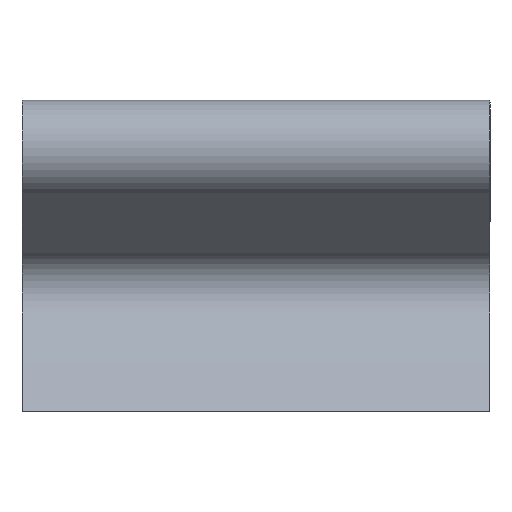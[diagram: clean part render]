
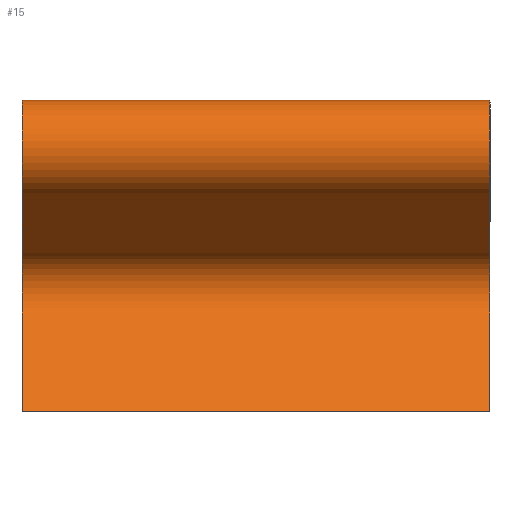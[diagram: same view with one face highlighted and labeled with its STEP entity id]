
A CAD part, left-side view. The second image highlights one B-rep face of the part: STEP entity #15.
In plain terms, the highlighted free-form (B-spline) face has degree [2, 1] with [27, 2] control points.
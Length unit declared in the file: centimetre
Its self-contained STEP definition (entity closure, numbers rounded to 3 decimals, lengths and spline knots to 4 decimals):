
#15=ADVANCED_FACE($,(#21),#76,.T.);
#21=FACE_OUTER_BOUND($,#27,.T.);
#27=EDGE_LOOP($,(#36,#37,#38,#39));
#36=ORIENTED_EDGE($,*,*,#65,.T.);
#37=ORIENTED_EDGE($,*,*,#62,.T.);
#38=ORIENTED_EDGE($,*,*,#57,.F.);
#39=ORIENTED_EDGE($,*,*,#59,.F.);
#57=EDGE_CURVE($,#68,#69,#87,.T.);
#59=EDGE_CURVE($,#70,#68,#82,.T.);
#62=EDGE_CURVE($,#73,#69,#84,.T.);
#65=EDGE_CURVE($,#70,#73,#91,.T.);
#68=VERTEX_POINT($,#432);
#69=VERTEX_POINT($,#433);
#70=VERTEX_POINT($,#434);
#73=VERTEX_POINT($,#437);
#76=(
BOUNDED_SURFACE()
B_SPLINE_SURFACE(2,1,((#321,#322),(#323,#324),(#325,#326),(#327,#328),(#329,
#330),(#331,#332),(#333,#334),(#335,#336),(#337,#338),(#339,#340),(#341,
#342),(#343,#344),(#345,#346),(#347,#348),(#349,#350),(#351,#352),(#353,
#354),(#355,#356),(#357,#358),(#359,#360),(#361,#362),(#363,#364),(#365,
#366),(#367,#368),(#369,#370),(#371,#372),(#373,#374)),.UNSPECIFIED.,.F.,
.F.,.F.)
B_SPLINE_SURFACE_WITH_KNOTS((3,2,2,2,2,2,2,2,2,2,2,2,2,3),(2,2),(-405.9873,
-389.7645,-384.8688,-379.9732,-365.23,
-356.7216,-348.2131,-261.2131,-252.7046,
-244.1961,-229.453,-224.5574,-219.6617,
-203.4389),(0.,60.),.UNSPECIFIED.)
GEOMETRIC_REPRESENTATION_ITEM()
RATIONAL_B_SPLINE_SURFACE(((1.,1.),(1.,1.),(1.,1.),(0.903,0.903),
(1.,1.),(0.903,0.903),(1.,1.),(1.,1.),(1.,1.),(0.793,
0.793),(1.,1.),(0.793,0.793),(1.,1.),
(1.,1.),(1.,1.),(0.793,0.793),(1.,1.),(0.793,
0.793),(1.,1.),(1.,1.),(1.,1.),(0.903,0.903),
(1.,1.),(0.903,0.903),(1.,1.),(1.,1.),(1.,1.)))
REPRESENTATION_ITEM($)
SURFACE()
);
#82=(
BOUNDED_CURVE()
B_SPLINE_CURVE(2,(#202,#203,#204,#205,#206,#207,#208,#209,#210,#211,#212,
#213,#214,#215,#216,#217,#218,#219,#220,#221,#222,#223,#224,#225,#226,#227,
#228),.UNSPECIFIED.,.F.,.F.)
B_SPLINE_CURVE_WITH_KNOTS((3,2,2,2,2,2,2,2,2,2,2,2,2,3),(203.4389,
219.6617,224.5574,229.453,244.1961,252.7046,
261.2131,348.2131,356.7216,365.23,379.9732,
384.8688,389.7645,405.9873),.UNSPECIFIED.)
CURVE()
GEOMETRIC_REPRESENTATION_ITEM()
RATIONAL_B_SPLINE_CURVE((1.,1.,1.,0.903,1.,0.903,
1.,1.,1.,0.793,1.,0.793,1.,1.,1.,0.793,
1.,0.793,1.,1.,1.,0.903,1.,0.903,1.,
1.,1.))
REPRESENTATION_ITEM($)
);
#84=(
BOUNDED_CURVE()
B_SPLINE_CURVE(2,(#258,#259,#260,#261,#262,#263,#264,#265,#266,#267,#268,
#269,#270,#271,#272,#273,#274,#275,#276,#277,#278,#279,#280,#281,#282,#283,
#284),.UNSPECIFIED.,.F.,.F.)
B_SPLINE_CURVE_WITH_KNOTS((3,2,2,2,2,2,2,2,2,2,2,2,2,3),(203.4389,
219.6617,224.5574,229.453,244.1961,252.7046,
261.2131,348.2131,356.7216,365.23,379.9732,
384.8688,389.7645,405.9873),.UNSPECIFIED.)
CURVE()
GEOMETRIC_REPRESENTATION_ITEM()
RATIONAL_B_SPLINE_CURVE((1.,1.,1.,0.903,1.,0.903,
1.,1.,1.,0.793,1.,0.793,1.,1.,1.,0.793,
1.,0.793,1.,1.,1.,0.903,1.,0.903,1.,
1.,1.))
REPRESENTATION_ITEM($)
);
#87=B_SPLINE_CURVE_WITH_KNOTS($,1,(#198,#199),.UNSPECIFIED.,.F.,.F.,(2,2),
(0.,60.),.UNSPECIFIED.);
#91=B_SPLINE_CURVE_WITH_KNOTS($,1,(#314,#315),.UNSPECIFIED.,.F.,.F.,(2,2),
(0.,60.),.UNSPECIFIED.);
#198=CARTESIAN_POINT($,(-117.5,0.,0.));
#199=CARTESIAN_POINT($,(-117.5,60.,0.));
#202=CARTESIAN_POINT($,(-30.5,0.,0.));
#203=CARTESIAN_POINT($,(-35.9276,0.,6.028));
#204=CARTESIAN_POINT($,(-41.3552,0.,12.0559));
#205=CARTESIAN_POINT($,(-43.1106,0.,14.0055));
#206=CARTESIAN_POINT($,(-42.7002,0.,16.5965));
#207=CARTESIAN_POINT($,(-42.2898,0.,19.1876));
#208=CARTESIAN_POINT($,(-40.0179,0.,20.4993));
#209=CARTESIAN_POINT($,(-33.634,0.,24.1851));
#210=CARTESIAN_POINT($,(-27.25,0.,27.8708));
#211=CARTESIAN_POINT($,(-22.9306,0.,30.3646));
#212=CARTESIAN_POINT($,(-24.2215,0.,35.1823));
#213=CARTESIAN_POINT($,(-25.5124,0.,40.));
#214=CARTESIAN_POINT($,(-30.5,0.,40.));
#215=CARTESIAN_POINT($,(-74.,0.,40.));
#216=CARTESIAN_POINT($,(-117.5,0.,40.));
#217=CARTESIAN_POINT($,(-122.4876,0.,40.));
#218=CARTESIAN_POINT($,(-123.7785,0.,35.1823));
#219=CARTESIAN_POINT($,(-125.0694,0.,30.3646));
#220=CARTESIAN_POINT($,(-120.75,0.,27.8708));
#221=CARTESIAN_POINT($,(-114.366,0.,24.1851));
#222=CARTESIAN_POINT($,(-107.9821,0.,20.4993));
#223=CARTESIAN_POINT($,(-105.7102,0.,19.1876));
#224=CARTESIAN_POINT($,(-105.2998,0.,16.5965));
#225=CARTESIAN_POINT($,(-104.8894,0.,14.0055));
#226=CARTESIAN_POINT($,(-106.6448,0.,12.0559));
#227=CARTESIAN_POINT($,(-112.0724,0.,6.028));
#228=CARTESIAN_POINT($,(-117.5,0.,0.));
#258=CARTESIAN_POINT($,(-30.5,60.,0.));
#259=CARTESIAN_POINT($,(-35.9276,60.,6.028));
#260=CARTESIAN_POINT($,(-41.3552,60.,12.0559));
#261=CARTESIAN_POINT($,(-43.1106,60.,14.0055));
#262=CARTESIAN_POINT($,(-42.7002,60.,16.5965));
#263=CARTESIAN_POINT($,(-42.2898,60.,19.1876));
#264=CARTESIAN_POINT($,(-40.0179,60.,20.4993));
#265=CARTESIAN_POINT($,(-33.634,60.,24.1851));
#266=CARTESIAN_POINT($,(-27.25,60.,27.8708));
#267=CARTESIAN_POINT($,(-22.9306,60.,30.3646));
#268=CARTESIAN_POINT($,(-24.2215,60.,35.1823));
#269=CARTESIAN_POINT($,(-25.5124,60.,40.));
#270=CARTESIAN_POINT($,(-30.5,60.,40.));
#271=CARTESIAN_POINT($,(-74.,60.,40.));
#272=CARTESIAN_POINT($,(-117.5,60.,40.));
#273=CARTESIAN_POINT($,(-122.4876,60.,40.));
#274=CARTESIAN_POINT($,(-123.7785,60.,35.1823));
#275=CARTESIAN_POINT($,(-125.0694,60.,30.3646));
#276=CARTESIAN_POINT($,(-120.75,60.,27.8708));
#277=CARTESIAN_POINT($,(-114.366,60.,24.1851));
#278=CARTESIAN_POINT($,(-107.9821,60.,20.4993));
#279=CARTESIAN_POINT($,(-105.7102,60.,19.1876));
#280=CARTESIAN_POINT($,(-105.2998,60.,16.5965));
#281=CARTESIAN_POINT($,(-104.8894,60.,14.0055));
#282=CARTESIAN_POINT($,(-106.6448,60.,12.0559));
#283=CARTESIAN_POINT($,(-112.0724,60.,6.028));
#284=CARTESIAN_POINT($,(-117.5,60.,0.));
#314=CARTESIAN_POINT($,(-30.5,0.,0.));
#315=CARTESIAN_POINT($,(-30.5,60.,0.));
#321=CARTESIAN_POINT($,(-117.5,0.,0.));
#322=CARTESIAN_POINT($,(-117.5,60.,0.));
#323=CARTESIAN_POINT($,(-112.0724,0.,6.028));
#324=CARTESIAN_POINT($,(-112.0724,60.,6.028));
#325=CARTESIAN_POINT($,(-106.6448,0.,12.0559));
#326=CARTESIAN_POINT($,(-106.6448,60.,12.0559));
#327=CARTESIAN_POINT($,(-104.8894,0.,14.0055));
#328=CARTESIAN_POINT($,(-104.8894,60.,14.0055));
#329=CARTESIAN_POINT($,(-105.2998,0.,16.5965));
#330=CARTESIAN_POINT($,(-105.2998,60.,16.5965));
#331=CARTESIAN_POINT($,(-105.7102,0.,19.1876));
#332=CARTESIAN_POINT($,(-105.7102,60.,19.1876));
#333=CARTESIAN_POINT($,(-107.9821,0.,20.4993));
#334=CARTESIAN_POINT($,(-107.9821,60.,20.4993));
#335=CARTESIAN_POINT($,(-114.366,0.,24.1851));
#336=CARTESIAN_POINT($,(-114.366,60.,24.1851));
#337=CARTESIAN_POINT($,(-120.75,0.,27.8708));
#338=CARTESIAN_POINT($,(-120.75,60.,27.8708));
#339=CARTESIAN_POINT($,(-125.0694,0.,30.3646));
#340=CARTESIAN_POINT($,(-125.0694,60.,30.3646));
#341=CARTESIAN_POINT($,(-123.7785,0.,35.1823));
#342=CARTESIAN_POINT($,(-123.7785,60.,35.1823));
#343=CARTESIAN_POINT($,(-122.4876,0.,40.));
#344=CARTESIAN_POINT($,(-122.4876,60.,40.));
#345=CARTESIAN_POINT($,(-117.5,0.,40.));
#346=CARTESIAN_POINT($,(-117.5,60.,40.));
#347=CARTESIAN_POINT($,(-74.,0.,40.));
#348=CARTESIAN_POINT($,(-74.,60.,40.));
#349=CARTESIAN_POINT($,(-30.5,0.,40.));
#350=CARTESIAN_POINT($,(-30.5,60.,40.));
#351=CARTESIAN_POINT($,(-25.5124,0.,40.));
#352=CARTESIAN_POINT($,(-25.5124,60.,40.));
#353=CARTESIAN_POINT($,(-24.2215,0.,35.1823));
#354=CARTESIAN_POINT($,(-24.2215,60.,35.1823));
#355=CARTESIAN_POINT($,(-22.9306,0.,30.3646));
#356=CARTESIAN_POINT($,(-22.9306,60.,30.3646));
#357=CARTESIAN_POINT($,(-27.25,0.,27.8708));
#358=CARTESIAN_POINT($,(-27.25,60.,27.8708));
#359=CARTESIAN_POINT($,(-33.634,0.,24.1851));
#360=CARTESIAN_POINT($,(-33.634,60.,24.1851));
#361=CARTESIAN_POINT($,(-40.0179,0.,20.4993));
#362=CARTESIAN_POINT($,(-40.0179,60.,20.4993));
#363=CARTESIAN_POINT($,(-42.2898,0.,19.1876));
#364=CARTESIAN_POINT($,(-42.2898,60.,19.1876));
#365=CARTESIAN_POINT($,(-42.7002,0.,16.5965));
#366=CARTESIAN_POINT($,(-42.7002,60.,16.5965));
#367=CARTESIAN_POINT($,(-43.1106,0.,14.0055));
#368=CARTESIAN_POINT($,(-43.1106,60.,14.0055));
#369=CARTESIAN_POINT($,(-41.3552,0.,12.0559));
#370=CARTESIAN_POINT($,(-41.3552,60.,12.0559));
#371=CARTESIAN_POINT($,(-35.9276,0.,6.028));
#372=CARTESIAN_POINT($,(-35.9276,60.,6.028));
#373=CARTESIAN_POINT($,(-30.5,0.,0.));
#374=CARTESIAN_POINT($,(-30.5,60.,0.));
#432=CARTESIAN_POINT($,(-117.5,0.,0.));
#433=CARTESIAN_POINT($,(-117.5,60.,0.));
#434=CARTESIAN_POINT($,(-30.5,0.,0.));
#437=CARTESIAN_POINT($,(-30.5,60.,0.));
